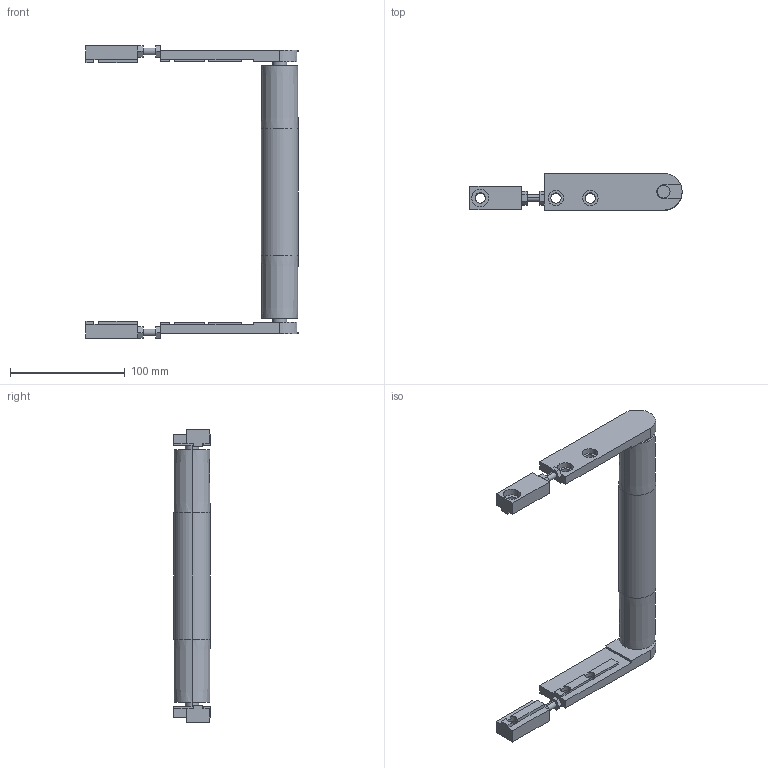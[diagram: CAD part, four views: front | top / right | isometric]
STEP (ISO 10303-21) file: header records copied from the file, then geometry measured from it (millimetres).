
FILE_DESCRIPTION (( 'STEP AP203' ), '1' );
FILE_NAME ('084.030.KI.200.STEP', '2019-07-29T09:48:13', ( '' ), ( '' ), 'SwSTEP 2.0', 'SolidWorks 2018', '' );
FILE_SCHEMA (( 'CONFIG_CONTROL_DESIGN' ));
Length unit declared in the file: millimetre
Products named in the file (7): 084.801.016 SX; 084.802.036; 084.030.KI.200; 084.802.008; 084.030.155; 084.801.016 DX; 084.030.154_TUBO 32x3 L=150
Assembly tree (8 placements, depth 2):
  084.030.KI.200
    084.030.154_TUBO 32x3 L=150
    084.802.036  x2
    084.030.155
    084.801.016 DX
    084.801.016 SX
    084.802.008  x2
Bounding box: 185 x 32 x 255 mm (x, y, z)
Volume: 170642.9 mm3; surface area: 91837.3 mm2
Topology: 14 solids, 16 shells, 294 faces, 694 edges, 438 vertices
Faces by surface type: plane 132, cylinder 106, torus 36, cone 20
Entity records: 6991 total; most frequent: CARTESIAN_POINT 1301, DIRECTION 1104, ORIENTED_EDGE 968, EDGE_CURVE 484, AXIS2_PLACEMENT_3D 424, VERTEX_POINT 309, VECTOR 256, LINE 256
